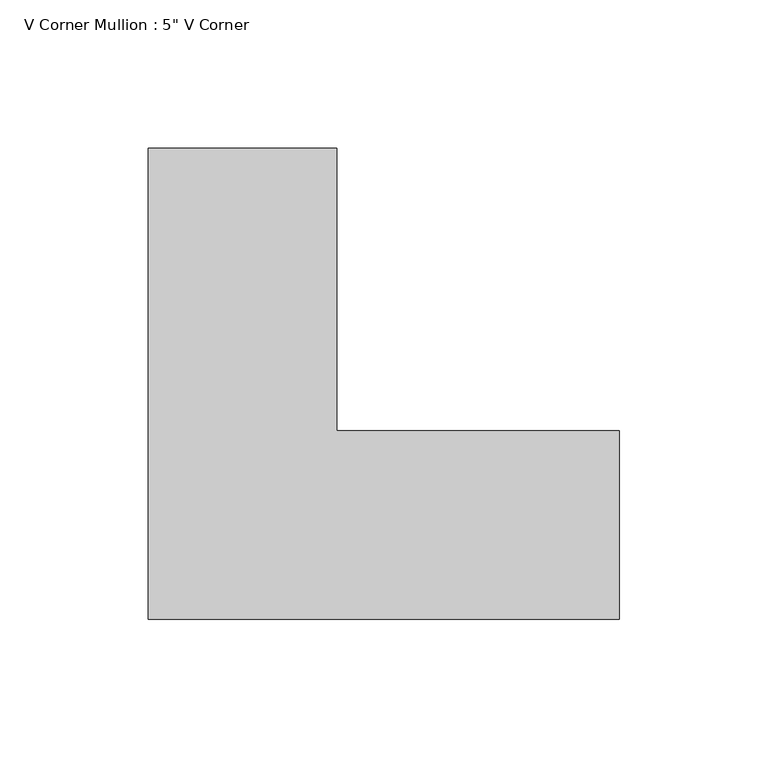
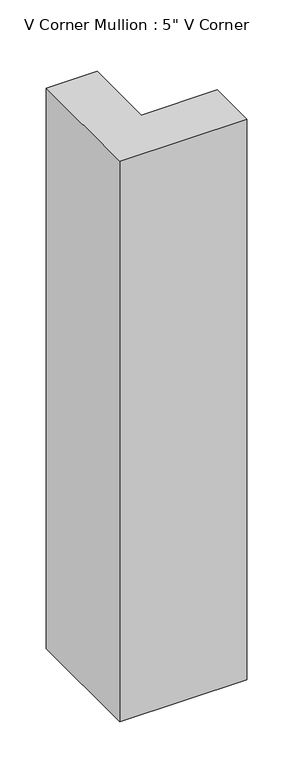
"""IFC4 building model written with IfcOpenShell, lengths in millimetres: member geometry."""

from ifc_helpers import new_model, si_unit, frame, origin, place, context, project, spatial, polyline, outline, extrude, source, transform, mapped, element, save


def member_73470b54(model_context):
    return source(origin(), model_context, "Body", "SweptSolid", [
        extrude(outline(polyline([(63.5, -95.25), (-95.25, -95.25), (-95.25, 63.5), (-31.75, 63.5), (-31.75, -31.75), (63.5, -31.75), (63.5, -95.25)])), frame((0.0, 0.0, -740.1977813), z_axis=(0.0, 0.0, 1.0), x_axis=(1.0, 0.0, 0.0)), (0.0, 0.0, 1.0), 740.1977813),
    ])


if __name__ == "__main__":
    model = new_model("IFC4")
    model_context = context("Model", 3, world=origin())
    ifc_project = project(units=[si_unit("LENGTHUNIT", "METRE", prefix="MILLI")], contexts=[model_context])
    site = spatial("IfcSite", under=ifc_project)
    building = spatial("IfcBuilding", under=site)
    placement = place(None, origin())
    member_shape = member_73470b54(model_context)
    element("IfcMember", 1, ObjectType="V Corner Mullion : 5\" V Corner", at=placement, inside=building, context=model_context, shape_type="MappedRepresentation", body=[
        mapped(member_shape, transform((0.0, 0.0, 0.0), x_axis=(1.0, 0.0, 0.0), y_axis=(0.0, 1.0, 0.0), z_axis=(0.0, 0.0, 1.0))),
    ])
    save(model, "model.ifc")
